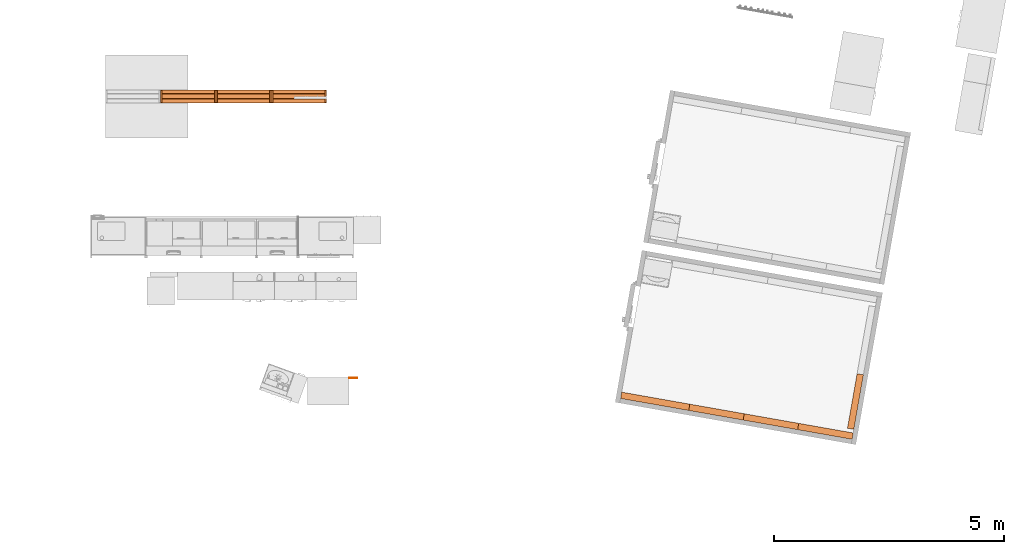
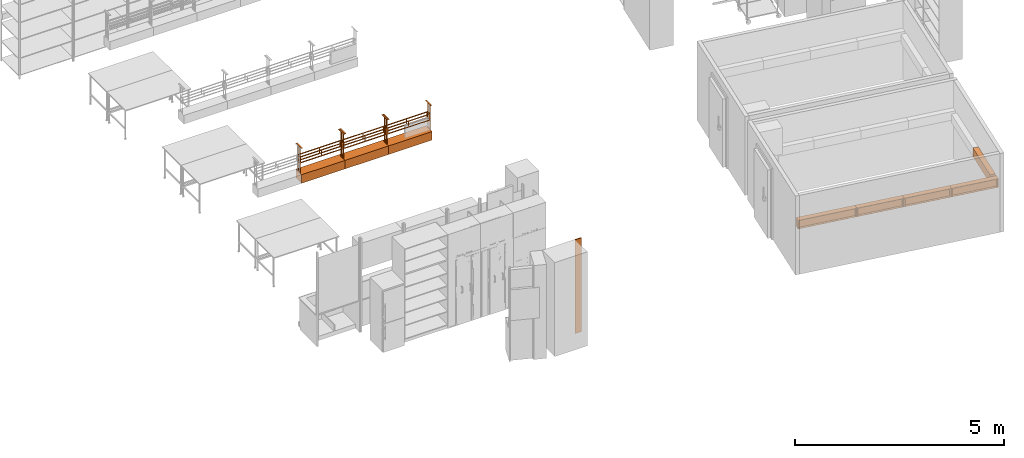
# One storey, part 10 of 32: 9 proxies.
"""IFC2X3 building model written with IfcOpenShell, lengths in metres."""

import ifcopenshell
import ifcopenshell.guid

model = None  # the IFC model being written
_history = None  # IfcOwnerHistory: only IFC2X3 demands one
_inside = {}  # id of a spatial element -> (the spatial element, [elements in it])
_under = {}  # id of a project, library or spatial element -> (it, [spatial elements below it])
_declared = {}  # id of a project -> (the project, [libraries it declares])
_typed = {}  # id of a type object -> (the type object, [elements of that type])
_made_of = {}  # id of a material, layer set ... -> (it, [elements and type objects made of it])


def new_model(schema):
    """Start an empty IFC model of exactly this schema.

    Asked for "IFC4X3", IfcOpenShell would pick the latest addendum, in which some entities
    have other attributes; the version numbers below select the first issue.
    IFC2X3 requires an IfcOwnerHistory on every rooted entity: one is made here for all.
    """
    global model, _history
    if schema == "IFC4X3":
        model = ifcopenshell.file(schema_version=(4, 3, 0, 0))
    else:
        model = ifcopenshell.file(schema=schema)
    _inside.clear()
    _under.clear()
    _declared.clear()
    _typed.clear()
    _made_of.clear()
    _history = None
    if model.schema == "IFC2X3":
        org = make("IfcOrganization", Name="unknown")
        user = make(
            "IfcPersonAndOrganization",
            ThePerson=make("IfcPerson", FamilyName="unknown"),
            TheOrganization=org,
        )
        app = make(
            "IfcApplication",
            ApplicationDeveloper=org,
            Version="unknown",
            ApplicationFullName="unknown",
            ApplicationIdentifier="unknown",
        )
        _history = make(
            "IfcOwnerHistory",
            OwningUser=user,
            OwningApplication=app,
            ChangeAction="ADDED",
            CreationDate=0,
        )
    return model


def make(cls, **values):
    """One entity of the class cls with the attributes given. An attribute that is None is left unset."""
    return model.create_entity(
        cls, **{name: value for name, value in values.items() if value is not None}
    )


def entity(cls, *values):
    """Any entity or typed value of the class cls, its attributes in the order of the schema. None: left unset."""
    e = model.create_entity(cls)
    for i, value in enumerate(values):
        if value is not None:
            e[i] = value
    return e


def rooted(cls, **values):
    """An entity with a GlobalId (a new one), such as an element, a storey or a relation."""
    return make(cls, GlobalId=ifcopenshell.guid.new(), OwnerHistory=_history, **values)


def si_unit(unit_type, name, prefix=None):
    """IfcSIUnit, for example si_unit("LENGTHUNIT", "METRE", prefix="MILLI")."""
    return make("IfcSIUnit", UnitType=unit_type, Prefix=prefix, Name=name)


def converted_unit(unit_type, name, factor, base, dimensions=None, offset=None):
    """IfcConversionBasedUnit, such as the inch: factor (a typed value) times the base unit."""
    return make(
        "IfcConversionBasedUnit"
        if offset is None
        else "IfcConversionBasedUnitWithOffset",
        ConversionOffset=offset,
        Dimensions=None
        if dimensions is None
        else entity("IfcDimensionalExponents", *dimensions),
        UnitType=unit_type,
        Name=name,
        ConversionFactor=make(
            "IfcMeasureWithUnit", ValueComponent=factor, UnitComponent=base
        ),
    )


def derived_unit(unit_type, elements):
    """IfcDerivedUnit: a product of units, each with its exponent."""
    return make(
        "IfcDerivedUnit",
        Elements=[
            make("IfcDerivedUnitElement", Unit=unit, Exponent=power)
            for unit, power in elements
        ],
        UnitType=unit_type,
    )


def assignment(units):
    """IfcUnitAssignment: the units of a project."""
    return None if units is None else make("IfcUnitAssignment", Units=units)


def point(xyz):
    """IfcCartesianPoint."""
    return None if xyz is None else make("IfcCartesianPoint", Coordinates=xyz)


def direction(xyz):
    """IfcDirection."""
    return None if xyz is None else make("IfcDirection", DirectionRatios=xyz)


def frame(location, z_axis=None, x_axis=None):
    """IfcAxis2Placement3D, a coordinate frame: its origin and axes. An axis left out is left unset."""
    return make(
        "IfcAxis2Placement3D",
        Location=point(location),
        Axis=direction(z_axis),
        RefDirection=direction(x_axis),
    )


def frame_2d(location, x_axis=None):
    """IfcAxis2Placement2D, a coordinate frame in the plane: its origin and x axis."""
    return make(
        "IfcAxis2Placement2D", Location=point(location), RefDirection=direction(x_axis)
    )


def origin():
    """The frame at (0, 0, 0) with its axes left unset."""
    return frame((0.0, 0.0, 0.0))


def origin_2d_with_axis():
    """The frame at (0, 0) in the plane with the x axis (1, 0) written out."""
    return frame_2d((0.0, 0.0), x_axis=(1.0, 0.0))


def place(relative_to, where):
    """IfcLocalPlacement: puts the frame where relative to a parent placement (None: the world)."""
    return make(
        "IfcLocalPlacement", PlacementRelTo=relative_to, RelativePlacement=where
    )


def context(
    kind, dimensions, precision=None, world=None, true_north=None, identifier=None
):
    """IfcGeometricRepresentationContext, for example the 3D "Model" context."""
    return make(
        "IfcGeometricRepresentationContext",
        ContextIdentifier=identifier,
        ContextType=kind,
        CoordinateSpaceDimension=dimensions,
        Precision=precision,
        WorldCoordinateSystem=world,
        TrueNorth=true_north,
    )


def subcontext(parent, identifier, kind, view, scale=None):
    """IfcGeometricRepresentationSubContext, for example "Body" below "Model"."""
    return make(
        "IfcGeometricRepresentationSubContext",
        ContextIdentifier=identifier,
        ContextType=kind,
        ParentContext=parent,
        TargetScale=scale,
        TargetView=view,
    )


def project(units=None, contexts=None):
    """IfcProject with its units and contexts."""
    return rooted(
        "IfcProject",
        Name="project",
        RepresentationContexts=contexts,
        UnitsInContext=assignment(units),
    )


def spatial(cls, under=None, at=None, **own):
    """A site, building, storey or space (cls), placed at a placement, below another one or the project."""
    s = rooted(cls, ObjectPlacement=at, **own)
    if under is not None:
        _under.setdefault(under.id(), (under, []))[1].append(s)
    return s


def profile(cls, at=None, kind="AREA", **sizes):
    """A parametric profile (cls). Its sizes go by their IFC names, for example OverallWidth=200.0."""
    return make(cls, ProfileType=kind, Position=at, **sizes)


def rectangle(**sizes):
    """IfcRectangleProfileDef."""
    return profile("IfcRectangleProfileDef", **sizes)


def extrude(swept, where, along, depth):
    """IfcExtrudedAreaSolid: the profile swept, set in the frame where, extruded along a direction by depth."""
    return make(
        "IfcExtrudedAreaSolid",
        SweptArea=swept,
        Position=where,
        ExtrudedDirection=direction(along),
        Depth=depth,
    )


def faces_of(points, faces, orient=None, outer=None):
    """IfcFace entities. A face is a list of loops; a loop is a list of indices into points, from 0.

    orient and outer hold one flag for each loop. By default every Orientation is true, the
    first loop of a face is its IfcFaceOuterBound and the others are IfcFaceBound.
    """
    made = []
    for i, loops in enumerate(faces):
        bounds = []
        for j, loop in enumerate(loops):
            is_outer = j == 0 if outer is None else outer[i][j]
            bounds.append(
                make(
                    "IfcFaceOuterBound" if is_outer else "IfcFaceBound",
                    Bound=make("IfcPolyLoop", Polygon=[points[k] for k in loop]),
                    Orientation=True if orient is None else orient[i][j],
                )
            )
        made.append(make("IfcFace", Bounds=bounds))
    return made


def faceted_brep(points, faces, orient=None, outer=None, voids=None):
    """IfcFacetedBrep: a solid bounded by flat faces; with voids (closed shells), ...WithVoids."""
    shared = [point(p) for p in points]
    hull = make("IfcClosedShell", CfsFaces=faces_of(shared, faces, orient, outer))
    if voids is None:
        return make("IfcFacetedBrep", Outer=hull)
    return make(
        "IfcFacetedBrepWithVoids",
        Outer=hull,
        Voids=[
            make(cls, CfsFaces=faces_of(shared, fs, o, b)) for cls, fs, o, b in voids
        ],
    )


def shape(context_of_items, identifier, shape_type, items):
    """IfcShapeRepresentation: the items that make up one representation, for example the "Body"."""
    return make(
        "IfcShapeRepresentation",
        ContextOfItems=context_of_items,
        RepresentationIdentifier=identifier,
        RepresentationType=shape_type,
        Items=items,
    )


def source(mapping_origin, context_of_items, identifier, shape_type, items):
    """IfcRepresentationMap: a shape defined once, which mapped items show again and again."""
    return make(
        "IfcRepresentationMap",
        MappingOrigin=mapping_origin,
        MappedRepresentation=shape(context_of_items, identifier, shape_type, items),
    )


def transform(
    local_origin,
    x_axis=None,
    y_axis=None,
    z_axis=None,
    scale=None,
    scale2=None,
    scale3=None,
    uniform=True,
):
    """IfcCartesianTransformationOperator3D, or its non-uniform kind. x_axis, y_axis, z_axis: its Axis1, 2, 3."""
    if uniform:
        return make(
            "IfcCartesianTransformationOperator3D",
            Axis1=direction(x_axis),
            Axis2=direction(y_axis),
            LocalOrigin=point(local_origin),
            Scale=scale,
            Axis3=direction(z_axis),
        )
    return make(
        "IfcCartesianTransformationOperator3DnonUniform",
        Axis1=direction(x_axis),
        Axis2=direction(y_axis),
        LocalOrigin=point(local_origin),
        Scale=scale,
        Axis3=direction(z_axis),
        Scale2=scale2,
        Scale3=scale3,
    )


def mapped(mapping_source, mapping_target):
    """IfcMappedItem: shows the shape of a source again, moved by a transform."""
    return make(
        "IfcMappedItem", MappingSource=mapping_source, MappingTarget=mapping_target
    )


def material(Name=None, Category=None):
    """IfcMaterial."""
    return make("IfcMaterial", Name=Name, Category=Category)


def material_list(materials):
    """IfcMaterialList."""
    return make("IfcMaterialList", Materials=materials)


def made_of(thing, what):
    """Note that an element or type object is made of a material, layer set ...; save() writes the relation."""
    if what is not None:
        _made_of.setdefault(what.id(), (what, []))[1].append(thing)
    return thing


def type_object(cls, material=None, **own):
    """A type object (cls), such as IfcWallType, which elements share."""
    return made_of(rooted(cls, **own), material)


def type_shapes(of_type, sources):
    """Give a type object the sources (RepresentationMaps) that its elements show as mapped items."""
    of_type.RepresentationMaps = sources


def element(
    cls,
    number,
    at=None,
    inside=None,
    cuts=None,
    type_object=None,
    material=None,
    context=None,
    identifier="Body",
    shape_type=None,
    held_by="IfcProductDefinitionShape",
    body=None,
    shapes=None,
    **own,
):
    """One element of the class cls, such as IfcWall. Its Tag is "e" and its number.

    at: its placement. inside: the storey or other place that contains it. cuts: it is an
    opening in that element (IfcRelVoidsElement). A single representation is given by context,
    identifier, shape_type and body (its items); several are given by shapes. held_by: the class
    of the entity that holds the representations. save() writes the other relations.
    """
    e = rooted(cls, Tag="e%d" % number, ObjectPlacement=at, **own)
    if body is not None:
        shapes = [shape(context, identifier, shape_type, body)]
    if shapes is not None:
        e.Representation = make(held_by, Representations=shapes)
    if inside is not None:
        _inside.setdefault(inside.id(), (inside, []))[1].append(e)
    if cuts is not None:
        rooted(
            "IfcRelVoidsElement", RelatingBuildingElement=cuts, RelatedOpeningElement=e
        )
    if type_object is not None:
        _typed.setdefault(type_object.id(), (type_object, []))[1].append(e)
    return made_of(e, material)


def aggregate(whole, parts):
    """IfcRelAggregates: a whole, such as a stair, and the parts it consists of."""
    return rooted("IfcRelAggregates", RelatingObject=whole, RelatedObjects=parts)


def save(model, path):
    """Write the relations noted so far, then the file.

    IfcRelAggregates (storeys below a building ...), IfcRelContainedInSpatialStructure (elements
    in a storey), IfcRelDefinesByType, IfcRelAssociatesMaterial and IfcRelDeclares: one each for
    every whole, place, type object, material and project.
    """
    for whole, parts in _under.values():
        aggregate(whole, parts)
    for where, things in _inside.values():
        rooted(
            "IfcRelContainedInSpatialStructure",
            RelatedElements=things,
            RelatingStructure=where,
        )
    for kind, things in _typed.values():
        rooted("IfcRelDefinesByType", RelatedObjects=things, RelatingType=kind)
    for what, things in _made_of.values():
        rooted("IfcRelAssociatesMaterial", RelatedObjects=things, RelatingMaterial=what)
    for by, libraries in _declared.values():
        rooted("IfcRelDeclares", RelatingContext=by, RelatedDefinitions=libraries)
    model.write(path)


model = new_model("IFC2X3")

# Units and contexts
model_context = context("Model", 3, precision=1e-05, world=origin(), true_north=direction((6.12303176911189e-17, 1.0)))
body_context = subcontext(model_context, "Body", "Model", "MODEL_VIEW")
ifc_project = project(units=[si_unit("LENGTHUNIT", "METRE"), si_unit("AREAUNIT", "SQUARE_METRE"), si_unit("VOLUMEUNIT", "CUBIC_METRE"), converted_unit("PLANEANGLEUNIT", "DEGREE", entity("IfcRatioMeasure", 0.0174532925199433), si_unit("PLANEANGLEUNIT", "RADIAN"), dimensions=[0, 0, 0, 0, 0, 0, 0]), si_unit("MASSUNIT", "GRAM", prefix="KILO"), derived_unit("MASSDENSITYUNIT", [(si_unit("MASSUNIT", "GRAM", prefix="KILO"), 1), (si_unit("LENGTHUNIT", "METRE"), -3)]), derived_unit("MOMENTOFINERTIAUNIT", [(si_unit("LENGTHUNIT", "METRE"), 4)]), si_unit("TIMEUNIT", "SECOND"), si_unit("FREQUENCYUNIT", "HERTZ"), si_unit("THERMODYNAMICTEMPERATUREUNIT", "DEGREE_CELSIUS"), derived_unit("THERMALTRANSMITTANCEUNIT", [(si_unit("MASSUNIT", "GRAM", prefix="KILO"), 1), (si_unit("THERMODYNAMICTEMPERATUREUNIT", "KELVIN"), -1), (si_unit("TIMEUNIT", "SECOND"), -3)]), derived_unit("VOLUMETRICFLOWRATEUNIT", [(si_unit("LENGTHUNIT", "METRE"), 3), (si_unit("TIMEUNIT", "SECOND"), -1)]), si_unit("ELECTRICCURRENTUNIT", "AMPERE"), si_unit("ELECTRICVOLTAGEUNIT", "VOLT"), si_unit("POWERUNIT", "WATT"), si_unit("FORCEUNIT", "NEWTON", prefix="KILO"), si_unit("ILLUMINANCEUNIT", "LUX"), si_unit("LUMINOUSFLUXUNIT", "LUMEN"), si_unit("LUMINOUSINTENSITYUNIT", "CANDELA"), derived_unit("USERDEFINED", [(si_unit("MASSUNIT", "GRAM", prefix="KILO"), -1), (si_unit("LENGTHUNIT", "METRE"), -2), (si_unit("TIMEUNIT", "SECOND"), 3), (si_unit("LUMINOUSFLUXUNIT", "LUMEN"), 1)]), derived_unit("LINEARVELOCITYUNIT", [(si_unit("LENGTHUNIT", "METRE"), 1), (si_unit("TIMEUNIT", "SECOND"), -1)]), si_unit("PRESSUREUNIT", "PASCAL"), derived_unit("USERDEFINED", [(si_unit("LENGTHUNIT", "METRE"), -2), (si_unit("MASSUNIT", "GRAM", prefix="KILO"), 1), (si_unit("TIMEUNIT", "SECOND"), -2)]), derived_unit("LINEARFORCEUNIT", [(si_unit("MASSUNIT", "GRAM", prefix="KILO"), 1), (si_unit("LENGTHUNIT", "METRE"), 1), (si_unit("TIMEUNIT", "SECOND"), -2), (si_unit("LENGTHUNIT", "METRE"), -1)]), derived_unit("PLANARFORCEUNIT", [(si_unit("MASSUNIT", "GRAM", prefix="KILO"), 1), (si_unit("LENGTHUNIT", "METRE"), 1), (si_unit("TIMEUNIT", "SECOND"), -2), (si_unit("LENGTHUNIT", "METRE"), -2)])], contexts=[model_context])

# Site, building, storey
site_placement = place(None, origin())
site = spatial("IfcSite", under=ifc_project, at=site_placement, Name="Default", CompositionType="ELEMENT")
building_placement = place(site_placement, origin())
building = spatial("IfcBuilding", under=site, at=building_placement, CompositionType="ELEMENT")
storey_placement = place(building_placement, origin())
storey = spatial("IfcBuildingStorey", under=building, at=storey_placement, Name="00 EG", CompositionType="ELEMENT", Elevation=0.0)

# Proxies
ifc_material_1 = material(Name="dh_Weiß")
building_element_proxy_type_1 = type_object("IfcBuildingElementProxyType", Name="dh_Blende:dh_Blende", PredefinedType="NOTDEFINED", material=ifc_material_1)
shared_shape_1 = source(origin(), body_context, "Body", "SweptSolid", [
    extrude(rectangle(XDim=0.17691552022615, YDim=0.02, at=origin_2d_with_axis()), frame((0.0, -0.00999999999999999, 0.0), z_axis=(0.0, 0.0, 1.0), x_axis=(-1.0, 0.0, 0.0)), (0.0, 0.0, 1.0), 2.74),
])
type_shapes(building_element_proxy_type_1, [shared_shape_1])
proxy_1_placement = place(storey_placement, frame((16.447542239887, 7.53813846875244, 0.0), z_axis=(0.0, 0.0, 1.0), x_axis=(-1.0, 0.0, 0.0)))
element("IfcBuildingElementProxy", 1, at=proxy_1_placement, inside=storey, type_object=building_element_proxy_type_1, material=ifc_material_1, Name="dh_Blende:dh_Blende", ObjectType="dh_Blende:dh_Blende", context=body_context, shape_type="MappedRepresentation", body=[
    mapped(shared_shape_1, transform((0.0, 0.0, 0.0), scale=1.0)),
])
ifc_material_list_1 = material_list([ifc_material_1, ifc_material_1])
building_element_proxy_type_2 = type_object("IfcBuildingElementProxyType", Name="dh_Doppel_ MEK:DMEK 120", PredefinedType="NOTDEFINED", material=ifc_material_list_1)
shared_shape_2 = source(origin(), body_context, "Body", "Brep", [
    faceted_brep([(0.0100000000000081, 0.2, 1.00500000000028), (0.0100000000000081, 0.0800000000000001, 1.00500000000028), (0.0100000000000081, 0.0800000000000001, 0.727500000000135), (0.0100000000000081, 0.0899999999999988, 0.727500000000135), (0.0100000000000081, 0.0899999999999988, 0.527500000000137), (0.0100000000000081, 0.0800000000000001, 0.527500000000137), (0.0100000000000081, 0.0800000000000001, 0.249999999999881), (0.0100000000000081, 0.2, 0.249999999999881), (0.0100000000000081, 0.2, 0.527500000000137), (0.0100000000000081, 0.189999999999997, 0.527500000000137), (0.0100000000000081, 0.189999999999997, 0.727500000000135), (0.0100000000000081, 0.2, 0.727500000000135), (0.0100000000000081, 0.175, 0.975000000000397), (0.0100000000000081, 0.175, 0.727500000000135), (0.0100000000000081, 0.105, 0.727500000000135), (0.0100000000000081, 0.105, 0.975000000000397), (0.0100000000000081, 0.175, 0.527500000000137), (0.0100000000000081, 0.175, 0.279999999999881), (0.0100000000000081, 0.105, 0.27999999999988), (0.0100000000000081, 0.105, 0.527500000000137), (0.0100000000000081, 0.175000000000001, 0.697500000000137), (0.0100000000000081, 0.175000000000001, 0.557500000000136), (0.0100000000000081, 0.105000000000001, 0.557500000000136), (0.0100000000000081, 0.105000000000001, 0.697500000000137), (0.0, 0.2, 1.00500000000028), (0.0, 0.2, 0.249999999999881), (0.0, 0.0800000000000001, 0.249999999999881), (0.0, 0.0800000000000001, 1.00500000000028), (0.0, 0.175, 0.975000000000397), (0.0, 0.105, 0.975000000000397), (0.0, 0.105, 0.727500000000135), (0.0, 0.175, 0.727500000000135), (0.0, 0.175, 0.527500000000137), (0.0, 0.105, 0.527500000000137), (0.0, 0.105, 0.27999999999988), (0.0, 0.175, 0.279999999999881), (0.0, 0.175000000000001, 0.697500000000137), (0.0, 0.105000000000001, 0.697500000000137), (0.0, 0.105000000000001, 0.557500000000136), (0.0, 0.175000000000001, 0.557500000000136), (1.19000000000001, 0.0800000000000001, 0.527500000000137), (1.19000000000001, 0.0800000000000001, 0.249999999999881), (1.20000000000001, 0.0800000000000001, 0.249999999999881), (1.20000000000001, 0.0800000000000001, 1.00500000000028), (1.19000000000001, 0.0800000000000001, 1.00500000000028), (1.19000000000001, 0.0800000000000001, 0.727500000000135), (0.61250000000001, 0.0800000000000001, 0.697500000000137), (1.16500000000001, 0.0800000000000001, 0.697500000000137), (1.16500000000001, 0.0800000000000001, 0.557500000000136), (0.61250000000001, 0.0800000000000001, 0.557500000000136), (0.0350000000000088, 0.0800000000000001, 0.697500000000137), (0.587500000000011, 0.0800000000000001, 0.697500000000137), (0.587500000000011, 0.0800000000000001, 0.557500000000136), (0.0350000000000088, 0.0800000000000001, 0.557500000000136), (1.19000000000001, 0.2, 0.727500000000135), (1.19000000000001, 0.2, 1.00500000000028), (1.20000000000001, 0.2, 1.00500000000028), (1.20000000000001, 0.2, 0.249999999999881), (1.19000000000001, 0.2, 0.249999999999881), (1.19000000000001, 0.2, 0.527500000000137), (0.0350000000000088, 0.2, 0.697500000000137), (0.0350000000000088, 0.2, 0.557500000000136), (0.587500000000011, 0.2, 0.557500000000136), (0.587500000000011, 0.2, 0.697500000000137), (0.61250000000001, 0.2, 0.697500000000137), (0.61250000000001, 0.2, 0.557500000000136), (1.16500000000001, 0.2, 0.557500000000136), (1.16500000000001, 0.2, 0.697500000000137), (1.19000000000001, 0.0899999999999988, 0.727500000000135), (1.19000000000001, 0.0899999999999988, 0.527500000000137), (0.61250000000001, 0.0899999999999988, 0.697500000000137), (0.61250000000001, 0.0899999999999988, 0.557500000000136), (1.16500000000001, 0.0899999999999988, 0.557500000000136), (1.16500000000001, 0.0899999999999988, 0.697500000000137), (0.0350000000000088, 0.0899999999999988, 0.697500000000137), (0.0350000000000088, 0.0899999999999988, 0.557500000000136), (0.587500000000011, 0.0899999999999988, 0.557500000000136), (0.587500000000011, 0.0899999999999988, 0.697500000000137), (1.19000000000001, 0.189999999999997, 0.527500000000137), (1.19000000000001, 0.189999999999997, 0.727500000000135), (0.0350000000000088, 0.189999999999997, 0.697500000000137), (0.587500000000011, 0.189999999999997, 0.697500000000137), (0.587500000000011, 0.189999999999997, 0.557500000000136), (0.0350000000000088, 0.189999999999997, 0.557500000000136), (0.61250000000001, 0.189999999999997, 0.697500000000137), (1.16500000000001, 0.189999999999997, 0.697500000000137), (1.16500000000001, 0.189999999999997, 0.557500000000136), (0.61250000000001, 0.189999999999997, 0.557500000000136), (1.20000000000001, 0.175, 0.975000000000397), (1.20000000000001, 0.175, 0.727500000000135), (1.20000000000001, 0.105, 0.727500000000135), (1.20000000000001, 0.105, 0.975000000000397), (1.20000000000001, 0.175000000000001, 0.697500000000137), (1.20000000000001, 0.175000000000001, 0.557500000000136), (1.20000000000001, 0.105000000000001, 0.557500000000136), (1.20000000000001, 0.105000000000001, 0.697500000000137), (1.20000000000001, 0.105, 0.27999999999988), (1.20000000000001, 0.105, 0.527500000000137), (1.20000000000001, 0.175, 0.527500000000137), (1.20000000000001, 0.175, 0.279999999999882), (1.19000000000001, 0.175, 0.975000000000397), (1.19000000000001, 0.105, 0.975000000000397), (1.19000000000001, 0.105, 0.727500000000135), (1.19000000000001, 0.175, 0.727500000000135), (1.19000000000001, 0.175000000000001, 0.697500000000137), (1.19000000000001, 0.105000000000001, 0.697500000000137), (1.19000000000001, 0.105000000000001, 0.557500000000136), (1.19000000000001, 0.175000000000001, 0.557500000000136), (1.19000000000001, 0.105, 0.27999999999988), (1.19000000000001, 0.175, 0.279999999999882), (1.19000000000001, 0.175, 0.527500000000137), (1.19000000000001, 0.105, 0.527500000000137)], [[[0, 1, 2, 3, 4, 5, 6, 7, 8, 9, 10, 11], [12, 13, 14, 15], [16, 17, 18, 19], [20, 21, 22, 23]], [[24, 25, 26, 27], [28, 29, 30, 31], [32, 33, 34, 35], [36, 37, 38, 39]], [[1, 0, 24, 27]], [[27, 26, 6, 5, 40, 41, 42, 43, 44, 45, 2, 1], [46, 47, 48, 49], [50, 51, 52, 53]], [[7, 6, 26, 25]], [[25, 24, 0, 11, 54, 55, 56, 57, 58, 59, 8, 7], [60, 61, 62, 63], [64, 65, 66, 67]], [[13, 12, 28, 31]], [[14, 13, 31, 30]], [[15, 14, 30, 29]], [[12, 15, 29, 28]], [[17, 16, 32, 35]], [[18, 17, 35, 34]], [[19, 18, 34, 33]], [[16, 19, 33, 32]], [[21, 20, 36, 39]], [[22, 21, 39, 38]], [[23, 22, 38, 37]], [[20, 23, 37, 36]], [[3, 68, 69, 4], [70, 71, 72, 73], [74, 75, 76, 77]], [[40, 5, 4, 69]], [[2, 45, 68, 3]], [[47, 46, 70, 73]], [[48, 47, 73, 72]], [[49, 48, 72, 71]], [[46, 49, 71, 70]], [[51, 50, 74, 77]], [[52, 51, 77, 76]], [[53, 52, 76, 75]], [[50, 53, 75, 74]], [[9, 78, 79, 10], [80, 81, 82, 83], [84, 85, 86, 87]], [[78, 9, 8, 59]], [[10, 79, 54, 11]], [[81, 80, 60, 63]], [[82, 81, 63, 62]], [[83, 82, 62, 61]], [[80, 83, 61, 60]], [[85, 84, 64, 67]], [[86, 85, 67, 66]], [[87, 86, 66, 65]], [[84, 87, 65, 64]], [[42, 57, 56, 43], [88, 89, 90, 91], [92, 93, 94, 95], [96, 97, 98, 99]], [[44, 55, 54, 79, 78, 59, 58, 41, 40, 69, 68, 45], [100, 101, 102, 103], [104, 105, 106, 107], [108, 109, 110, 111]], [[57, 42, 41, 58]], [[43, 56, 55, 44]], [[89, 88, 100, 103]], [[90, 89, 103, 102]], [[91, 90, 102, 101]], [[88, 91, 101, 100]], [[93, 92, 104, 107]], [[94, 93, 107, 106]], [[95, 94, 106, 105]], [[92, 95, 105, 104]], [[97, 96, 108, 111]], [[98, 97, 111, 110]], [[99, 98, 110, 109]], [[96, 99, 109, 108]]]),
    faceted_brep([(1.165, 0.00999999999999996, 1.01000000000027), (1.2, 0.00999999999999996, 1.01000000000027), (1.2, 0.27, 1.01000000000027), (1.165, 0.27, 1.01000000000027), (1.165, 0.00999999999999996, 1.00500000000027), (1.2, 0.00999999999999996, 1.00500000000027), (1.2, 0.27, 1.00500000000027), (1.165, 0.27, 1.00500000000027)], [[[0, 1, 2, 3]], [[1, 0, 4, 5]], [[2, 1, 5, 6]], [[3, 2, 6, 7]], [[0, 3, 7, 4]], [[4, 7, 6, 5]]]),
    faceted_brep([(0.0349999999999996, 0.270000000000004, 1.00500000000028), (0.0349999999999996, 0.0100000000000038, 1.00500000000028), (0.0, 0.0100000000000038, 1.00500000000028), (0.0, 0.270000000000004, 1.00500000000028), (0.0, 0.270000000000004, 1.01000000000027), (0.0349999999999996, 0.270000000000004, 1.01000000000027), (0.0, 0.0100000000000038, 1.01000000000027), (0.0349999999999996, 0.0100000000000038, 1.01000000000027)], [[[0, 1, 2, 3]], [[4, 5, 0, 3]], [[6, 4, 3, 2]], [[7, 6, 2, 1]], [[5, 7, 1, 0]], [[5, 4, 6, 7]]]),
    faceted_brep([(0.0, 0.2, 0.249999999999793), (0.0100000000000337, 0.2, 0.249999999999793), (1.19000000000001, 0.2, 0.249999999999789), (1.2, 0.2, 0.249999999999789), (1.2, 0.28, 0.249999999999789), (0.0, 0.28, 0.249999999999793), (0.0, 0.2, 0.244999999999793), (0.0, 0.28, 0.244999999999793), (1.2, 0.28, 0.244999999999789), (1.2, 0.2, 0.244999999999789), (1.19000000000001, 0.2, 0.244999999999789), (0.0100000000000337, 0.2, 0.244999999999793)], [[[0, 1, 2, 3, 4, 5]], [[6, 7, 8, 9, 10, 11]], [[0, 5, 7, 6]], [[5, 4, 8, 7]], [[4, 3, 9, 8]], [[3, 2, 10, 9]], [[2, 1, 11, 10]], [[1, 0, 6, 11]]]),
    faceted_brep([(1.20000000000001, 0.280000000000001, 0.245000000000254), (1.20000000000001, 0.200000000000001, 0.245000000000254), (1.20000000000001, 0.200000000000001, 0.00500000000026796), (1.20000000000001, 0.280000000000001, 0.00500000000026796), (0.0, 0.280000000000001, 0.245000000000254), (0.0, 0.280000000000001, 0.00500000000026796), (0.0, 0.200000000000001, 0.00500000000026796), (0.0, 0.200000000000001, 0.245000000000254)], [[[0, 1, 2, 3]], [[4, 5, 6, 7]], [[0, 3, 5, 4]], [[3, 2, 6, 5]], [[2, 1, 7, 6]], [[1, 0, 4, 7]]]),
    faceted_brep([(1.20000000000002, 0.08, 0.249999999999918), (1.20000000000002, 0.2, 0.249999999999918), (1.19000000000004, 0.2, 0.249999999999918), (1.19000000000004, 0.08, 0.249999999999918), (1.20000000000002, 0.08, 0.00499999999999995), (1.19000000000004, 0.08, 0.00499999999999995), (1.19000000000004, 0.2, 0.00499999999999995), (1.20000000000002, 0.2, 0.00499999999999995)], [[[0, 1, 2, 3]], [[4, 5, 6, 7]], [[1, 0, 4, 7]], [[2, 1, 7, 6]], [[3, 2, 6, 5]], [[0, 3, 5, 4]]]),
    faceted_brep([(0.0100000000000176, 0.2, 0.249999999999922), (0.0100000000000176, 0.08, 0.249999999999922), (0.0100000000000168, 0.08, 0.00500000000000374), (0.0100000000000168, 0.2, 0.00500000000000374), (0.0, 0.2, 0.249999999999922), (0.0, 0.2, 0.00500000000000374), (0.0, 0.08, 0.249999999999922), (0.0, 0.08, 0.00500000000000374)], [[[0, 1, 2, 3]], [[4, 0, 3, 5]], [[6, 4, 5, 7]], [[1, 6, 7, 2]], [[2, 7, 5, 3]], [[1, 0, 4, 6]]]),
    faceted_brep([(1.19000000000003, 0.08, 0.249999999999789), (1.19000000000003, 0.2, 0.249999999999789), (0.0100000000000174, 0.2, 0.249999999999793), (0.0100000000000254, 0.08, 0.249999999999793), (1.19000000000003, 0.08, 0.244999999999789), (0.0100000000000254, 0.08, 0.244999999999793), (0.0100000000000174, 0.2, 0.244999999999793), (1.19000000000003, 0.2, 0.244999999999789)], [[[0, 1, 2, 3]], [[4, 5, 6, 7]], [[1, 0, 4, 7]], [[2, 1, 7, 6]], [[3, 2, 6, 5]], [[0, 3, 5, 4]]]),
    faceted_brep([(0.0, 0.0, 0.0), (0.0, 0.0799999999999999, 0.0), (0.0, 0.28, 0.0), (1.20000000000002, 0.28, 0.0), (1.20000000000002, 0.0799999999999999, 0.0), (1.20000000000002, 0.0, 0.0), (0.0, 0.0, 0.00500000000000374), (1.20000000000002, 0.0, 0.00499999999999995), (1.20000000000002, 0.0799999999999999, 0.00499999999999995), (1.20000000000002, 0.28, 0.00499999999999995), (0.0, 0.28, 0.00500000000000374), (0.0, 0.0799999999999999, 0.00500000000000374)], [[[0, 1, 2, 3, 4, 5]], [[6, 7, 8, 9, 10, 11]], [[7, 6, 0, 5]], [[8, 7, 5, 4]], [[9, 8, 4, 3]], [[10, 9, 3, 2]], [[11, 10, 2, 1]], [[6, 11, 1, 0]]]),
    faceted_brep([(0.0, 0.08, 0.249999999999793), (0.0, 0.0, 0.249999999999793), (1.20000000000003, 0.0, 0.249999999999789), (1.20000000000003, 0.08, 0.249999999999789), (1.19000000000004, 0.08, 0.249999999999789), (0.0100000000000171, 0.08, 0.249999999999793), (0.0, 0.08, 0.244999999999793), (0.010000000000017, 0.08, 0.244999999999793), (1.19000000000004, 0.08, 0.244999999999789), (1.20000000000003, 0.08, 0.244999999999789), (1.20000000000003, 0.0, 0.244999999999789), (0.0, 0.0, 0.244999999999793)], [[[0, 1, 2, 3, 4, 5]], [[6, 7, 8, 9, 10, 11]], [[1, 0, 6, 11]], [[2, 1, 11, 10]], [[3, 2, 10, 9]], [[4, 3, 9, 8]], [[5, 4, 8, 7]], [[0, 5, 7, 6]]]),
    faceted_brep([(1.20000000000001, 0.0, 0.245000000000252), (1.20000000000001, 0.0, 0.00500000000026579), (1.20000000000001, 0.08, 0.00500000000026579), (1.20000000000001, 0.08, 0.245000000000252), (0.0, 0.0, 0.245000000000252), (0.0, 0.08, 0.245000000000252), (0.0, 0.08, 0.00500000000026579), (0.0, 0.0, 0.00500000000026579)], [[[0, 1, 2, 3]], [[4, 5, 6, 7]], [[1, 0, 4, 7]], [[2, 1, 7, 6]], [[3, 2, 6, 5]], [[0, 3, 5, 4]]]),
])
type_shapes(building_element_proxy_type_2, [shared_shape_2])
for number, where, name in (
    (2, (12.2679999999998, 13.5212249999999, 2.18999999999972), "dh_Doppel_ MEK:DMEK 120"),
    (3, (13.4679999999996, 13.5212249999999, 2.18999999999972), "dh_Doppel_ MEK:DMEK 120"),
    (4, (14.6679999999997, 13.5212249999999, 2.18999999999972), "dh_Doppel_ MEK:DMEK 120"),
):
    element("IfcBuildingElementProxy", number, at=place(storey_placement, frame(where)), inside=storey, type_object=building_element_proxy_type_2, material=ifc_material_1, Name=name, ObjectType="dh_Doppel_ MEK:DMEK 120", context=body_context, shape_type="MappedRepresentation", body=[
        mapped(shared_shape_2, transform((0.0, 0.0, 0.0), scale=1.0)),
    ])
ifc_material_2 = material(Name="dh_EZ blau")
ifc_material_list_2 = material_list([ifc_material_2, ifc_material_1])
ifc_material_3 = material(Name="dh_Blau")
ifc_material_list_3 = material_list([ifc_material_1, ifc_material_3, ifc_material_2])
building_element_proxy_type_3 = type_object("IfcBuildingElementProxyType", Name="dh_Einzel_ MEK:MEK 150", PredefinedType="NOTDEFINED", material=ifc_material_list_3)
shared_shape_3 = source(origin(), body_context, "Body", "SweptSolid", [
    extrude(rectangle(XDim=0.06, YDim=0.0299999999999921, at=origin_2d_with_axis()), frame((0.885000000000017, 0.33, 1.25499999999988), z_axis=(0.0, 0.0, 1.0), x_axis=(0.0, 1.0, 0.0)), (0.0, 0.0, 1.0), 0.240000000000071),
    extrude(rectangle(XDim=0.06, YDim=0.0299999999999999, at=origin_2d_with_axis()), frame((-0.584999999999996, 0.33, 1.25499999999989), z_axis=(0.0, 0.0, 1.0), x_axis=(0.0, 1.0, 0.0)), (0.0, 0.0, 1.0), 0.240000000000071),
    extrude(rectangle(XDim=0.06, YDim=1.50000000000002, at=origin_2d_with_axis()), frame((0.150000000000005, 0.33, 1.49499999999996), z_axis=(0.0, 0.0, 1.0), x_axis=(0.0, 1.0, 0.0)), (0.0, 0.0, 1.0), 0.00499999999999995),
    extrude(rectangle(XDim=1.50000000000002, YDim=0.14, at=frame_2d((-2.4980018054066e-15, -0.00333333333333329), x_axis=(1.0, 0.0))), frame((0.150000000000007, 0.293333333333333, 1.24999999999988)), (0.0, 0.0, 1.0), 0.00499999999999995),
    extrude(rectangle(XDim=0.08, YDim=1.50000000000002, at=frame_2d((0.0133333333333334, 0.0), x_axis=(1.0, 0.0))), frame((0.150000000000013, 0.273333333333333, 1.49499999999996), z_axis=(0.0, 0.0, 1.0), x_axis=(0.0, -1.0, 0.0)), (0.0, 0.0, 1.0), 0.00499999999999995),
    extrude(rectangle(XDim=1.5, YDim=0.08, at=origin_2d_with_axis()), frame((0.15, 0.26, 1.25499999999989), z_axis=(0.0, 0.0, 1.0), x_axis=(-1.0, 0.0, 0.0)), (0.0, 0.0, 1.0), 0.24000000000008),
])
type_shapes(building_element_proxy_type_3, [shared_shape_3])
proxy_2_placement = place(storey_placement, frame((23.2010838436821, 7.30196761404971, 0.0), z_axis=(0.0, 0.0, 1.0), x_axis=(-0.984807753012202, 0.173648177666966, 0.0)))
element("IfcBuildingElementProxy", 5, at=proxy_2_placement, inside=storey, type_object=building_element_proxy_type_3, material=ifc_material_list_2, Name="dh_Einzel_ MEK:MEK 150", ObjectType="dh_Einzel_ MEK:MEK 150", context=body_context, shape_type="MappedRepresentation", body=[
    mapped(shared_shape_3, transform((0.0, 0.0, 0.0), scale=1.0)),
])
ifc_material_list_4 = material_list([ifc_material_2, ifc_material_1])
ifc_material_list_5 = material_list([ifc_material_1, ifc_material_3, ifc_material_2])
building_element_proxy_type_4 = type_object("IfcBuildingElementProxyType", Name="dh_Einzel_ MEK:MEK 120", PredefinedType="NOTDEFINED", material=ifc_material_list_5)
shared_shape_4 = source(origin(), body_context, "Body", "SweptSolid", [
    extrude(rectangle(XDim=0.06, YDim=0.0299999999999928, at=frame_2d((0.0, -6.76542155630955e-17), x_axis=(1.0, 0.0))), frame((0.585000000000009, 0.33, 1.25499999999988), z_axis=(0.0, 0.0, 1.0), x_axis=(0.0, 1.0, 0.0)), (0.0, 0.0, 1.0), 0.240000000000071),
    extrude(rectangle(XDim=0.06, YDim=0.0300000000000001, at=origin_2d_with_axis()), frame((-0.584999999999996, 0.33, 1.25499999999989), z_axis=(0.0, 0.0, 1.0), x_axis=(0.0, 1.0, 0.0)), (0.0, 0.0, 1.0), 0.240000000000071),
    extrude(rectangle(XDim=0.06, YDim=1.2, at=origin_2d_with_axis()), frame((0.0, 0.33, 1.49499999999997), z_axis=(0.0, 0.0, 1.0), x_axis=(0.0, 1.0, 0.0)), (0.0, 0.0, 1.0), 0.00499999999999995),
    extrude(rectangle(XDim=1.20000000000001, YDim=0.14, at=frame_2d((-1.49880108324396e-15, -0.00333333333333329), x_axis=(1.0, 0.0))), frame((0.0, 0.293333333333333, 1.24999999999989)), (0.0, 0.0, 1.0), 0.00499999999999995),
    extrude(rectangle(XDim=0.08, YDim=1.20000000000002, at=frame_2d((0.0133333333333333, 0.0), x_axis=(1.0, 0.0))), frame((0.0, 0.273333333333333, 1.49499999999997), z_axis=(0.0, 0.0, 1.0), x_axis=(0.0, -1.0, 0.0)), (0.0, 0.0, 1.0), 0.00499999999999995),
    extrude(rectangle(XDim=1.2, YDim=0.08, at=origin_2d_with_axis()), frame((0.0, 0.26, 1.25499999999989), z_axis=(0.0, 0.0, 1.0), x_axis=(-1.0, 0.0, 0.0)), (0.0, 0.0, 1.0), 0.24000000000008),
])
type_shapes(building_element_proxy_type_4, [shared_shape_4])
proxy_3_placement = place(storey_placement, frame((27.0626237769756, 7.08817017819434, 0.0), z_axis=(0.0, 0.0, 1.0), x_axis=(-0.173648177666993, -0.984807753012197, 0.0)))
element("IfcBuildingElementProxy", 6, at=proxy_3_placement, inside=storey, type_object=building_element_proxy_type_4, material=ifc_material_list_4, Name="dh_Einzel_ MEK:MEK 120", ObjectType="dh_Einzel_ MEK:MEK 120", context=body_context, shape_type="MappedRepresentation", body=[
    mapped(shared_shape_4, transform((0.0, 0.0, 0.0), scale=1.0)),
])
ifc_material_list_6 = material_list([ifc_material_2, ifc_material_1])
proxy_4_placement = place(storey_placement, frame((26.746391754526, 6.67683417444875, 0.0), z_axis=(0.0, 0.0, 1.0), x_axis=(-0.984807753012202, 0.173648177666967, 0.0)))
element("IfcBuildingElementProxy", 7, at=proxy_4_placement, inside=storey, type_object=building_element_proxy_type_4, material=ifc_material_list_6, Name="dh_Einzel_ MEK:MEK 120", ObjectType="dh_Einzel_ MEK:MEK 120", context=body_context, shape_type="MappedRepresentation", body=[
    mapped(shared_shape_4, transform((0.0, 0.0, 0.0), scale=1.0)),
])
ifc_material_list_7 = material_list([ifc_material_2, ifc_material_1])
proxy_5_placement = place(storey_placement, frame((25.5646224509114, 6.88521198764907, 0.0), z_axis=(0.0, 0.0, 1.0), x_axis=(-0.984807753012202, 0.173648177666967, 0.0)))
element("IfcBuildingElementProxy", 8, at=proxy_5_placement, inside=storey, type_object=building_element_proxy_type_4, material=ifc_material_list_7, Name="dh_Einzel_ MEK:MEK 120", ObjectType="dh_Einzel_ MEK:MEK 120", context=body_context, shape_type="MappedRepresentation", body=[
    mapped(shared_shape_4, transform((0.0, 0.0, 0.0), scale=1.0)),
])
ifc_material_list_8 = material_list([ifc_material_2, ifc_material_1])
proxy_6_placement = place(storey_placement, frame((24.3828531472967, 7.09358980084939, 0.0), z_axis=(0.0, 0.0, 1.0), x_axis=(-0.984807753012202, 0.173648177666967, 0.0)))
element("IfcBuildingElementProxy", 9, at=proxy_6_placement, inside=storey, type_object=building_element_proxy_type_4, material=ifc_material_list_8, Name="dh_Einzel_ MEK:MEK 120", ObjectType="dh_Einzel_ MEK:MEK 120", context=body_context, shape_type="MappedRepresentation", body=[
    mapped(shared_shape_4, transform((0.0, 0.0, 0.0), scale=1.0)),
])

save(model, "model.ifc")
